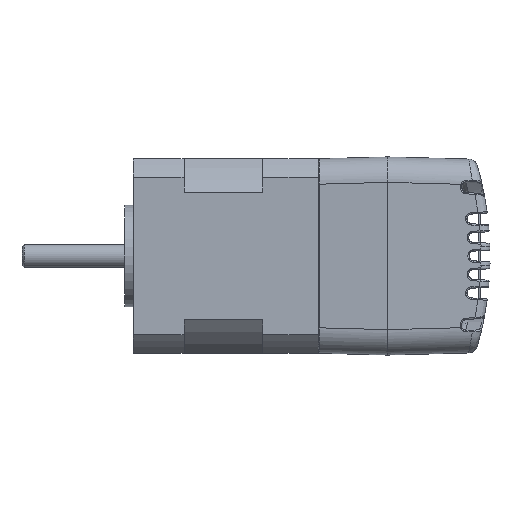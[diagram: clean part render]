
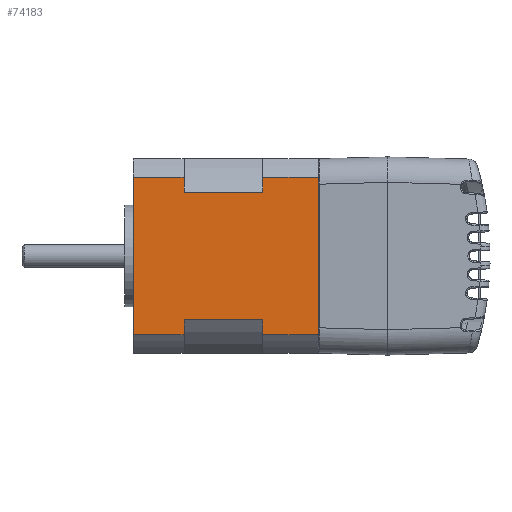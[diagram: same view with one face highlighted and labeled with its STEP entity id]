
A CAD part, front view. The second image highlights one B-rep face of the part: STEP entity #74183.
In plain terms, the highlighted planar face has unit normal (0, -1, 0).
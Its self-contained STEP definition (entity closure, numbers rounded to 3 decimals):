
#345 = EDGE_CURVE ( 'NONE', #24565, #60574, #31871, .T. ) ;
#1768 = VECTOR ( 'NONE', #88689, 1000. ) ;
#2351 = ORIENTED_EDGE ( 'NONE', *, *, #68647, .F. ) ;
#5494 = CARTESIAN_POINT ( 'NONE',  ( 34.766, 0., 29. ) ) ;
#5564 = VERTEX_POINT ( 'NONE', #67473 ) ;
#6246 = VERTEX_POINT ( 'NONE', #66935 ) ;
#6876 = AXIS2_PLACEMENT_3D ( 'NONE', #84481, #24601, #77216 ) ;
#8552 = ORIENTED_EDGE ( 'NONE', *, *, #54018, .F. ) ;
#9313 = CARTESIAN_POINT ( 'NONE',  ( 4.029, 0., 40. ) ) ;
#10252 = DIRECTION ( 'NONE',  ( 1., 0., 0. ) ) ;
#10932 = LINE ( 'NONE', #91549, #68553 ) ;
#11626 = CARTESIAN_POINT ( 'NONE',  ( 34.766, 0., 12. ) ) ;
#13663 = ORIENTED_EDGE ( 'NONE', *, *, #73114, .F. ) ;
#17339 = LINE ( 'NONE', #70724, #57296 ) ;
#18833 = DIRECTION ( 'NONE',  ( 1., 0., 0. ) ) ;
#18891 = VERTEX_POINT ( 'NONE', #5494 ) ;
#19559 = DIRECTION ( 'NONE',  ( 1., 0., 0. ) ) ;
#19677 = VECTOR ( 'NONE', #92719, 1000. ) ;
#19785 = LINE ( 'NONE', #9313, #64546 ) ;
#20986 = VECTOR ( 'NONE', #19559, 1000. ) ;
#22041 = LINE ( 'NONE', #24960, #19677 ) ;
#23314 = LINE ( 'NONE', #94546, #20986 ) ;
#23607 = CARTESIAN_POINT ( 'NONE',  ( 7.234, 0., 12. ) ) ;
#23721 = ORIENTED_EDGE ( 'NONE', *, *, #345, .F. ) ;
#24362 = CARTESIAN_POINT ( 'NONE',  ( 37.971, 0., 12. ) ) ;
#24565 = VERTEX_POINT ( 'NONE', #89118 ) ;
#24601 = DIRECTION ( 'NONE',  ( 0., 1., 0. ) ) ;
#24960 = CARTESIAN_POINT ( 'NONE',  ( 37.971, 0., 40. ) ) ;
#25280 = VERTEX_POINT ( 'NONE', #34622 ) ;
#25578 = ORIENTED_EDGE ( 'NONE', *, *, #85200, .T. ) ;
#27191 = CARTESIAN_POINT ( 'NONE',  ( 37.971, 0., 29. ) ) ;
#27526 = VECTOR ( 'NONE', #18833, 1000. ) ;
#28790 = DIRECTION ( 'NONE',  ( 0., 0., -1. ) ) ;
#30886 = ORIENTED_EDGE ( 'NONE', *, *, #65783, .F. ) ;
#31138 = DIRECTION ( 'NONE',  ( 0., 0., 1. ) ) ;
#31717 = VERTEX_POINT ( 'NONE', #24362 ) ;
#31818 = PLANE ( 'NONE',  #6876 ) ;
#31871 = LINE ( 'NONE', #23607, #89561 ) ;
#34622 = CARTESIAN_POINT ( 'NONE',  ( 4.029, 0., 12. ) ) ;
#34946 = EDGE_CURVE ( 'NONE', #18891, #89897, #47527, .T. ) ;
#34977 = CARTESIAN_POINT ( 'NONE',  ( 4.029, 0., 0. ) ) ;
#36044 = CARTESIAN_POINT ( 'NONE',  ( 4.029, 0., 40. ) ) ;
#37172 = CARTESIAN_POINT ( 'NONE',  ( 4.029, 0., 40. ) ) ;
#38513 = CARTESIAN_POINT ( 'NONE',  ( 4.029, 0., 29. ) ) ;
#38706 = EDGE_CURVE ( 'NONE', #50380, #5564, #75409, .T. ) ;
#38892 = DIRECTION ( 'NONE',  ( 1., 0., 0. ) ) ;
#40058 = CARTESIAN_POINT ( 'NONE',  ( 4.029, 0., 12. ) ) ;
#41363 = EDGE_CURVE ( 'NONE', #52413, #48201, #19785, .T. ) ;
#42115 = EDGE_CURVE ( 'NONE', #45276, #89897, #22041, .T. ) ;
#45276 = VERTEX_POINT ( 'NONE', #74329 ) ;
#47527 = LINE ( 'NONE', #78678, #27526 ) ;
#48201 = VERTEX_POINT ( 'NONE', #38513 ) ;
#49211 = ORIENTED_EDGE ( 'NONE', *, *, #38706, .T. ) ;
#50380 = VERTEX_POINT ( 'NONE', #34977 ) ;
#50550 = VECTOR ( 'NONE', #10252, 1000. ) ;
#52413 = VERTEX_POINT ( 'NONE', #37172 ) ;
#54018 = EDGE_CURVE ( 'NONE', #25280, #24565, #23314, .T. ) ;
#55380 = VECTOR ( 'NONE', #81345, 1000. ) ;
#57296 = VECTOR ( 'NONE', #80948, 1000. ) ;
#58634 = ORIENTED_EDGE ( 'NONE', *, *, #34946, .T. ) ;
#58646 = CARTESIAN_POINT ( 'NONE',  ( 4.029, 0., 0. ) ) ;
#59325 = LINE ( 'NONE', #36044, #1768 ) ;
#59448 = EDGE_CURVE ( 'NONE', #52413, #45276, #59325, .T. ) ;
#60574 = VERTEX_POINT ( 'NONE', #62231 ) ;
#61518 = VECTOR ( 'NONE', #79316, 1000. ) ;
#62231 = CARTESIAN_POINT ( 'NONE',  ( 7.234, 0., 29. ) ) ;
#63543 = DIRECTION ( 'NONE',  ( 0., 0., -1. ) ) ;
#63652 = ORIENTED_EDGE ( 'NONE', *, *, #41363, .T. ) ;
#64546 = VECTOR ( 'NONE', #63543, 1000. ) ;
#65783 = EDGE_CURVE ( 'NONE', #18891, #6246, #83895, .T. ) ;
#66935 = CARTESIAN_POINT ( 'NONE',  ( 34.766, 0., 12. ) ) ;
#67473 = CARTESIAN_POINT ( 'NONE',  ( 37.971, 0., 0. ) ) ;
#68553 = VECTOR ( 'NONE', #38892, 1000. ) ;
#68647 = EDGE_CURVE ( 'NONE', #6246, #31717, #70659, .T. ) ;
#70659 = LINE ( 'NONE', #40058, #50550 ) ;
#70724 = CARTESIAN_POINT ( 'NONE',  ( 37.971, 0., 40. ) ) ;
#73114 = EDGE_CURVE ( 'NONE', #31717, #5564, #17339, .T. ) ;
#73681 = FACE_OUTER_BOUND ( 'NONE', #91145, .T. ) ;
#73922 = CARTESIAN_POINT ( 'NONE',  ( 4.029, 0., 40. ) ) ;
#74081 = ORIENTED_EDGE ( 'NONE', *, *, #77454, .T. ) ;
#74183 = ADVANCED_FACE ( 'NONE', ( #73681 ), #31818, .F. ) ;
#74329 = CARTESIAN_POINT ( 'NONE',  ( 37.971, 0., 40. ) ) ;
#75409 = LINE ( 'NONE', #58646, #55380 ) ;
#77216 = DIRECTION ( 'NONE',  ( -1., 0., 0. ) ) ;
#77454 = EDGE_CURVE ( 'NONE', #48201, #60574, #10932, .T. ) ;
#78678 = CARTESIAN_POINT ( 'NONE',  ( 4.029, 0., 29. ) ) ;
#79316 = DIRECTION ( 'NONE',  ( 0., 0., -1. ) ) ;
#80948 = DIRECTION ( 'NONE',  ( 0., 0., -1. ) ) ;
#81345 = DIRECTION ( 'NONE',  ( 1., 0., 0. ) ) ;
#81994 = ORIENTED_EDGE ( 'NONE', *, *, #59448, .F. ) ;
#83895 = LINE ( 'NONE', #11626, #61518 ) ;
#84481 = CARTESIAN_POINT ( 'NONE',  ( 4.029, 0., 40. ) ) ;
#85200 = EDGE_CURVE ( 'NONE', #25280, #50380, #86685, .T. ) ;
#86685 = LINE ( 'NONE', #73922, #94872 ) ;
#88210 = ORIENTED_EDGE ( 'NONE', *, *, #42115, .F. ) ;
#88689 = DIRECTION ( 'NONE',  ( 1., 0., 0. ) ) ;
#89118 = CARTESIAN_POINT ( 'NONE',  ( 7.234, 0., 12. ) ) ;
#89561 = VECTOR ( 'NONE', #31138, 1000. ) ;
#89897 = VERTEX_POINT ( 'NONE', #27191 ) ;
#91145 = EDGE_LOOP ( 'NONE', ( #8552, #25578, #49211, #13663, #2351, #30886, #58634, #88210, #81994, #63652, #74081, #23721 ) ) ;
#91549 = CARTESIAN_POINT ( 'NONE',  ( 4.029, 0., 29. ) ) ;
#92719 = DIRECTION ( 'NONE',  ( 0., 0., -1. ) ) ;
#94546 = CARTESIAN_POINT ( 'NONE',  ( 4.029, 0., 12. ) ) ;
#94872 = VECTOR ( 'NONE', #28790, 1000. ) ;
